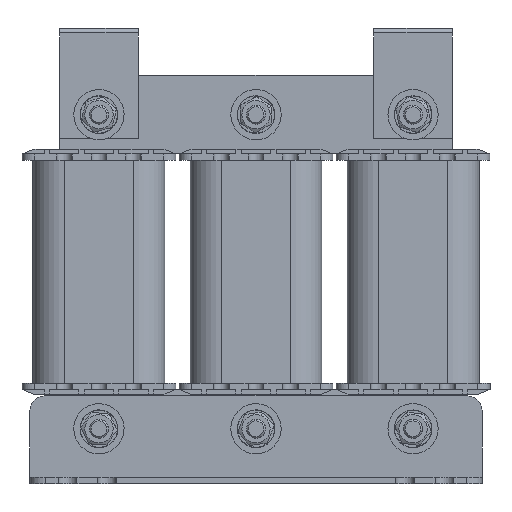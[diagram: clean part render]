
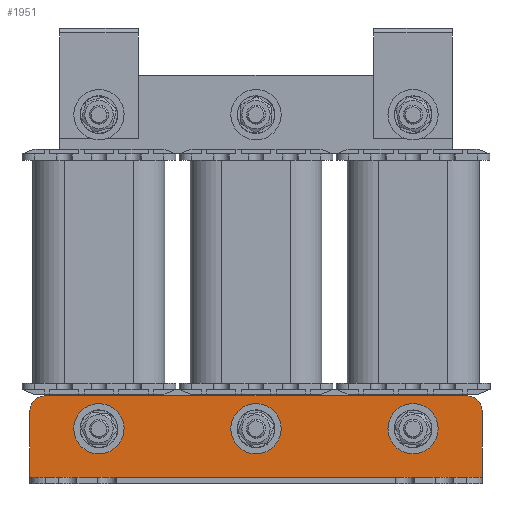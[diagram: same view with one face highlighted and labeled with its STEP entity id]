
A CAD part, front view. The second image highlights one B-rep face of the part: STEP entity #1951.
In plain terms, the highlighted planar face has unit normal (0, -1, 0) as drawn and (0, 1, 0) by its records, which use the part's own axes.
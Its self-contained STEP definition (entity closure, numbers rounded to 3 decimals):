
#197 = CARTESIAN_POINT ( 'NONE',  ( -67., -9.25, -23. ) ) ;
#350 = CARTESIAN_POINT ( 'NONE',  ( 50., -9.25, -14.25 ) ) ;
#367 = CARTESIAN_POINT ( 'NONE',  ( 0., -9.25, -14.25 ) ) ;
#436 = DIRECTION ( 'NONE',  ( 0., 1., 0. ) ) ;
#497 = AXIS2_PLACEMENT_3D ( 'NONE', #6054, #11381, #12501 ) ;
#648 = EDGE_CURVE ( 'NONE', #940, #4138, #8197, .T. ) ;
#699 = CARTESIAN_POINT ( 'NONE',  ( -72., -9.25, -2. ) ) ;
#731 = CARTESIAN_POINT ( 'NONE',  ( 72., -9.25, -2. ) ) ;
#853 = DIRECTION ( 'NONE',  ( 0., 1., 0. ) ) ;
#877 = EDGE_CURVE ( 'NONE', #11075, #1184, #7970, .T. ) ;
#891 = DIRECTION ( 'NONE',  ( -1., 0., 0. ) ) ;
#930 = DIRECTION ( 'NONE',  ( 0., 0., 1. ) ) ;
#940 = VERTEX_POINT ( 'NONE', #10634 ) ;
#1130 = CIRCLE ( 'NONE', #9149, 3.25 ) ;
#1184 = VERTEX_POINT ( 'NONE', #350 ) ;
#1397 = AXIS2_PLACEMENT_3D ( 'NONE', #2553, #436, #3730 ) ;
#1713 = ORIENTED_EDGE ( 'NONE', *, *, #9257, .F. ) ;
#1723 = CARTESIAN_POINT ( 'NONE',  ( -72., -9.25, -23. ) ) ;
#1736 = CARTESIAN_POINT ( 'NONE',  ( 72., -9.25, -28. ) ) ;
#1818 = DIRECTION ( 'NONE',  ( 0., 0., -1. ) ) ;
#1951 = ADVANCED_FACE ( 'NONE', ( #9110, #13341, #3818, #11524 ), #13483, .T. ) ;
#2255 = CARTESIAN_POINT ( 'NONE',  ( 0., -9.25, -20.75 ) ) ;
#2266 = AXIS2_PLACEMENT_3D ( 'NONE', #3278, #5441, #9939 ) ;
#2553 = CARTESIAN_POINT ( 'NONE',  ( 67., -9.25, -23. ) ) ;
#2924 = LINE ( 'NONE', #6343, #12514 ) ;
#3233 = EDGE_CURVE ( 'NONE', #4319, #12648, #9163, .T. ) ;
#3278 = CARTESIAN_POINT ( 'NONE',  ( 0., -9.25, -17.5 ) ) ;
#3395 = ORIENTED_EDGE ( 'NONE', *, *, #4866, .F. ) ;
#3408 = AXIS2_PLACEMENT_3D ( 'NONE', #197, #6407, #9573 ) ;
#3509 = CARTESIAN_POINT ( 'NONE',  ( -67., -9.25, -28. ) ) ;
#3575 = DIRECTION ( 'NONE',  ( 0., 1., 0. ) ) ;
#3730 = DIRECTION ( 'NONE',  ( 0., 0., 1. ) ) ;
#3818 = FACE_BOUND ( 'NONE', #5001, .T. ) ;
#3993 = EDGE_CURVE ( 'NONE', #9732, #9148, #11571, .T. ) ;
#4138 = VERTEX_POINT ( 'NONE', #5546 ) ;
#4172 = CARTESIAN_POINT ( 'NONE',  ( 72., -9.25, -2. ) ) ;
#4194 = CIRCLE ( 'NONE', #7311, 3.25 ) ;
#4292 = EDGE_CURVE ( 'NONE', #9732, #7280, #6301, .T. ) ;
#4319 = VERTEX_POINT ( 'NONE', #367 ) ;
#4339 = EDGE_LOOP ( 'NONE', ( #6730, #13340 ) ) ;
#4866 = EDGE_CURVE ( 'NONE', #13192, #7280, #8011, .T. ) ;
#5001 = EDGE_LOOP ( 'NONE', ( #8734, #6802 ) ) ;
#5122 = DIRECTION ( 'NONE',  ( 0., 0., 1. ) ) ;
#5408 = VECTOR ( 'NONE', #930, 1000. ) ;
#5441 = DIRECTION ( 'NONE',  ( 0., 1., 0. ) ) ;
#5546 = CARTESIAN_POINT ( 'NONE',  ( -50., -9.25, -14.25 ) ) ;
#6054 = CARTESIAN_POINT ( 'NONE',  ( 0., -9.25, 0. ) ) ;
#6194 = CARTESIAN_POINT ( 'NONE',  ( 72., -9.25, -23. ) ) ;
#6278 = EDGE_CURVE ( 'NONE', #12648, #4319, #1130, .T. ) ;
#6301 = CIRCLE ( 'NONE', #1397, 5. ) ;
#6343 = CARTESIAN_POINT ( 'NONE',  ( -72., -9.25, -2. ) ) ;
#6407 = DIRECTION ( 'NONE',  ( 0., 1., 0. ) ) ;
#6478 = CARTESIAN_POINT ( 'NONE',  ( -50., -9.25, -17.5 ) ) ;
#6618 = AXIS2_PLACEMENT_3D ( 'NONE', #6478, #10689, #9658 ) ;
#6730 = ORIENTED_EDGE ( 'NONE', *, *, #11495, .F. ) ;
#6802 = ORIENTED_EDGE ( 'NONE', *, *, #877, .F. ) ;
#6963 = DIRECTION ( 'NONE',  ( 1., 0., 0. ) ) ;
#7098 = VERTEX_POINT ( 'NONE', #699 ) ;
#7126 = EDGE_CURVE ( 'NONE', #7098, #9485, #11135, .T. ) ;
#7280 = VERTEX_POINT ( 'NONE', #11413 ) ;
#7311 = AXIS2_PLACEMENT_3D ( 'NONE', #12469, #853, #5122 ) ;
#7321 = DIRECTION ( 'NONE',  ( 0., 0., 1. ) ) ;
#7365 = DIRECTION ( 'NONE',  ( 0., 1., 0. ) ) ;
#7970 = CIRCLE ( 'NONE', #13290, 3.25 ) ;
#7977 = EDGE_CURVE ( 'NONE', #13192, #9485, #9594, .T. ) ;
#8011 = LINE ( 'NONE', #1736, #12513 ) ;
#8166 = CARTESIAN_POINT ( 'NONE',  ( -72., -9.25, -28. ) ) ;
#8197 = CIRCLE ( 'NONE', #9960, 3.25 ) ;
#8471 = EDGE_LOOP ( 'NONE', ( #8919, #11159 ) ) ;
#8734 = ORIENTED_EDGE ( 'NONE', *, *, #12958, .F. ) ;
#8869 = CARTESIAN_POINT ( 'NONE',  ( -50., -9.25, -17.5 ) ) ;
#8919 = ORIENTED_EDGE ( 'NONE', *, *, #3233, .F. ) ;
#9110 = FACE_BOUND ( 'NONE', #4339, .T. ) ;
#9114 = ORIENTED_EDGE ( 'NONE', *, *, #7126, .F. ) ;
#9148 = VERTEX_POINT ( 'NONE', #4172 ) ;
#9149 = AXIS2_PLACEMENT_3D ( 'NONE', #11324, #7365, #9372 ) ;
#9163 = CIRCLE ( 'NONE', #2266, 3.25 ) ;
#9257 = EDGE_CURVE ( 'NONE', #9148, #7098, #2924, .T. ) ;
#9372 = DIRECTION ( 'NONE',  ( 0., 0., 1. ) ) ;
#9485 = VERTEX_POINT ( 'NONE', #1723 ) ;
#9573 = DIRECTION ( 'NONE',  ( 0., 0., 1. ) ) ;
#9589 = DIRECTION ( 'NONE',  ( 0., 1., 0. ) ) ;
#9594 = CIRCLE ( 'NONE', #3408, 5. ) ;
#9658 = DIRECTION ( 'NONE',  ( 0., 0., 1. ) ) ;
#9732 = VERTEX_POINT ( 'NONE', #6194 ) ;
#9939 = DIRECTION ( 'NONE',  ( 0., 0., 1. ) ) ;
#9960 = AXIS2_PLACEMENT_3D ( 'NONE', #8869, #3575, #13093 ) ;
#10074 = ORIENTED_EDGE ( 'NONE', *, *, #7977, .T. ) ;
#10156 = ORIENTED_EDGE ( 'NONE', *, *, #4292, .T. ) ;
#10189 = EDGE_LOOP ( 'NONE', ( #12167, #10156, #3395, #10074, #9114, #1713 ) ) ;
#10249 = VECTOR ( 'NONE', #1818, 1000. ) ;
#10634 = CARTESIAN_POINT ( 'NONE',  ( -50., -9.25, -20.75 ) ) ;
#10689 = DIRECTION ( 'NONE',  ( 0., 1., 0. ) ) ;
#10994 = CARTESIAN_POINT ( 'NONE',  ( 50., -9.25, -20.75 ) ) ;
#11075 = VERTEX_POINT ( 'NONE', #10994 ) ;
#11135 = LINE ( 'NONE', #8166, #10249 ) ;
#11159 = ORIENTED_EDGE ( 'NONE', *, *, #6278, .F. ) ;
#11324 = CARTESIAN_POINT ( 'NONE',  ( 0., -9.25, -17.5 ) ) ;
#11381 = DIRECTION ( 'NONE',  ( 0., 1., 0. ) ) ;
#11413 = CARTESIAN_POINT ( 'NONE',  ( 67., -9.25, -28. ) ) ;
#11495 = EDGE_CURVE ( 'NONE', #4138, #940, #13488, .T. ) ;
#11524 = FACE_OUTER_BOUND ( 'NONE', #10189, .T. ) ;
#11571 = LINE ( 'NONE', #731, #5408 ) ;
#12167 = ORIENTED_EDGE ( 'NONE', *, *, #3993, .F. ) ;
#12469 = CARTESIAN_POINT ( 'NONE',  ( 50., -9.25, -17.5 ) ) ;
#12501 = DIRECTION ( 'NONE',  ( 0., 0., 1. ) ) ;
#12513 = VECTOR ( 'NONE', #6963, 1000. ) ;
#12514 = VECTOR ( 'NONE', #891, 1000. ) ;
#12648 = VERTEX_POINT ( 'NONE', #2255 ) ;
#12661 = CARTESIAN_POINT ( 'NONE',  ( 50., -9.25, -17.5 ) ) ;
#12958 = EDGE_CURVE ( 'NONE', #1184, #11075, #4194, .T. ) ;
#13093 = DIRECTION ( 'NONE',  ( 0., 0., 1. ) ) ;
#13192 = VERTEX_POINT ( 'NONE', #3509 ) ;
#13290 = AXIS2_PLACEMENT_3D ( 'NONE', #12661, #9589, #7321 ) ;
#13340 = ORIENTED_EDGE ( 'NONE', *, *, #648, .F. ) ;
#13341 = FACE_BOUND ( 'NONE', #8471, .T. ) ;
#13483 = PLANE ( 'NONE',  #497 ) ;
#13488 = CIRCLE ( 'NONE', #6618, 3.25 ) ;
